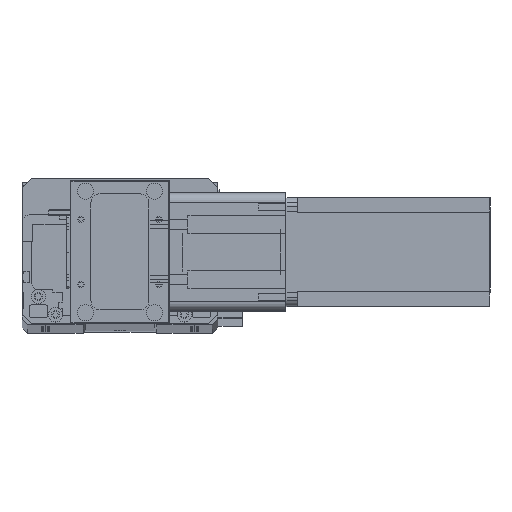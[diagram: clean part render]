
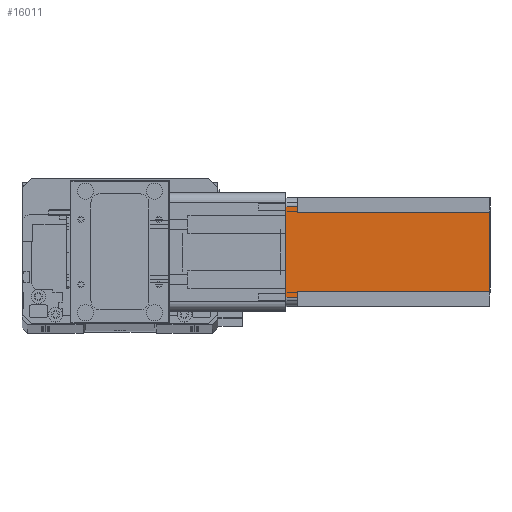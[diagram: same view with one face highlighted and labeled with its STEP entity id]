
A CAD part, top view. The second image highlights one B-rep face of the part: STEP entity #16011.
In plain terms, the highlighted planar face has unit normal (0, 0, 1) as drawn and (0, 1, 0) by its records, which use the part's own axes.
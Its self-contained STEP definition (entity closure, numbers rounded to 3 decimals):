
#144 = LINE ( 'NONE', #13099, #1634 ) ;
#325 = CARTESIAN_POINT ( 'NONE',  ( 8., 60., -112.5 ) ) ;
#492 = LINE ( 'NONE', #23048, #30905 ) ;
#837 = VECTOR ( 'NONE', #29702, 1000. ) ;
#1081 = CARTESIAN_POINT ( 'NONE',  ( 55., 60., 0. ) ) ;
#1118 = CARTESIAN_POINT ( 'NONE',  ( 8., 60., -6.5 ) ) ;
#1457 = VERTEX_POINT ( 'NONE', #30835 ) ;
#1634 = VECTOR ( 'NONE', #27446, 1000. ) ;
#1684 = CARTESIAN_POINT ( 'NONE',  ( 0., 60., -112.5 ) ) ;
#2647 = AXIS2_PLACEMENT_3D ( 'NONE', #23974, #19161, #12028 ) ;
#2879 = ORIENTED_EDGE ( 'NONE', *, *, #22713, .T. ) ;
#3081 = VECTOR ( 'NONE', #9927, 1000. ) ;
#3181 = CARTESIAN_POINT ( 'NONE',  ( 5., 60., -112.5 ) ) ;
#6032 = EDGE_CURVE ( 'NONE', #7641, #1457, #16633, .T. ) ;
#6991 = VERTEX_POINT ( 'NONE', #1081 ) ;
#7638 = CARTESIAN_POINT ( 'NONE',  ( 5., 60., -6.5 ) ) ;
#7641 = VERTEX_POINT ( 'NONE', #20452 ) ;
#8085 = VERTEX_POINT ( 'NONE', #7638 ) ;
#8391 = ORIENTED_EDGE ( 'NONE', *, *, #26552, .T. ) ;
#9238 = EDGE_CURVE ( 'NONE', #6991, #1457, #492, .T. ) ;
#9585 = EDGE_LOOP ( 'NONE', ( #12317, #13800, #16114, #13364, #2879, #18615, #30253, #8391 ) ) ;
#9635 = LINE ( 'NONE', #1684, #16025 ) ;
#9743 = VECTOR ( 'NONE', #22330, 1000. ) ;
#9850 = EDGE_CURVE ( 'NONE', #30170, #8085, #22965, .T. ) ;
#9927 = DIRECTION ( 'NONE',  ( 1., 0., 0. ) ) ;
#10522 = CARTESIAN_POINT ( 'NONE',  ( 0., 60., 0. ) ) ;
#11448 = EDGE_CURVE ( 'NONE', #30170, #12543, #21768, .T. ) ;
#12028 = DIRECTION ( 'NONE',  ( 0., 0., 1. ) ) ;
#12317 = ORIENTED_EDGE ( 'NONE', *, *, #25354, .F. ) ;
#12543 = VERTEX_POINT ( 'NONE', #325 ) ;
#13099 = CARTESIAN_POINT ( 'NONE',  ( 52., 60., -112.5 ) ) ;
#13364 = ORIENTED_EDGE ( 'NONE', *, *, #24335, .F. ) ;
#13450 = CARTESIAN_POINT ( 'NONE',  ( 52., 60., -112.5 ) ) ;
#13633 = LINE ( 'NONE', #10522, #837 ) ;
#13800 = ORIENTED_EDGE ( 'NONE', *, *, #9238, .T. ) ;
#13941 = LINE ( 'NONE', #3181, #25942 ) ;
#15482 = CARTESIAN_POINT ( 'NONE',  ( 8., 60., -6.5 ) ) ;
#15944 = DIRECTION ( 'NONE',  ( 0., 0., -1. ) ) ;
#16011 = ADVANCED_FACE ( 'NONE', ( #20501 ), #21558, .T. ) ;
#16025 = VECTOR ( 'NONE', #20892, 1000. ) ;
#16114 = ORIENTED_EDGE ( 'NONE', *, *, #6032, .F. ) ;
#16143 = VERTEX_POINT ( 'NONE', #19682 ) ;
#16633 = LINE ( 'NONE', #19493, #3081 ) ;
#17630 = CARTESIAN_POINT ( 'NONE',  ( 8., 60., -112.5 ) ) ;
#17936 = DIRECTION ( 'NONE',  ( -1., 0., 0. ) ) ;
#18253 = VERTEX_POINT ( 'NONE', #13450 ) ;
#18615 = ORIENTED_EDGE ( 'NONE', *, *, #11448, .F. ) ;
#19161 = DIRECTION ( 'NONE',  ( 0., 1., 0. ) ) ;
#19493 = CARTESIAN_POINT ( 'NONE',  ( 52., 60., -6.5 ) ) ;
#19682 = CARTESIAN_POINT ( 'NONE',  ( 5., 60., 0. ) ) ;
#19983 = DIRECTION ( 'NONE',  ( 0., 0., 1. ) ) ;
#20452 = CARTESIAN_POINT ( 'NONE',  ( 52., 60., -6.5 ) ) ;
#20501 = FACE_OUTER_BOUND ( 'NONE', #9585, .T. ) ;
#20892 = DIRECTION ( 'NONE',  ( -1., 0., 0. ) ) ;
#21558 = PLANE ( 'NONE',  #2647 ) ;
#21768 = LINE ( 'NONE', #17630, #9743 ) ;
#22330 = DIRECTION ( 'NONE',  ( 0., 0., -1. ) ) ;
#22713 = EDGE_CURVE ( 'NONE', #18253, #12543, #9635, .T. ) ;
#22965 = LINE ( 'NONE', #1118, #30107 ) ;
#23048 = CARTESIAN_POINT ( 'NONE',  ( 55., 60., -112.5 ) ) ;
#23974 = CARTESIAN_POINT ( 'NONE',  ( 0., 60., -112.5 ) ) ;
#24335 = EDGE_CURVE ( 'NONE', #18253, #7641, #144, .T. ) ;
#25354 = EDGE_CURVE ( 'NONE', #6991, #16143, #13633, .T. ) ;
#25942 = VECTOR ( 'NONE', #19983, 1000. ) ;
#26552 = EDGE_CURVE ( 'NONE', #8085, #16143, #13941, .T. ) ;
#27446 = DIRECTION ( 'NONE',  ( 0., 0., 1. ) ) ;
#29702 = DIRECTION ( 'NONE',  ( -1., 0., 0. ) ) ;
#30107 = VECTOR ( 'NONE', #17936, 1000. ) ;
#30170 = VERTEX_POINT ( 'NONE', #15482 ) ;
#30253 = ORIENTED_EDGE ( 'NONE', *, *, #9850, .T. ) ;
#30835 = CARTESIAN_POINT ( 'NONE',  ( 55., 60., -6.5 ) ) ;
#30905 = VECTOR ( 'NONE', #15944, 1000. ) ;
